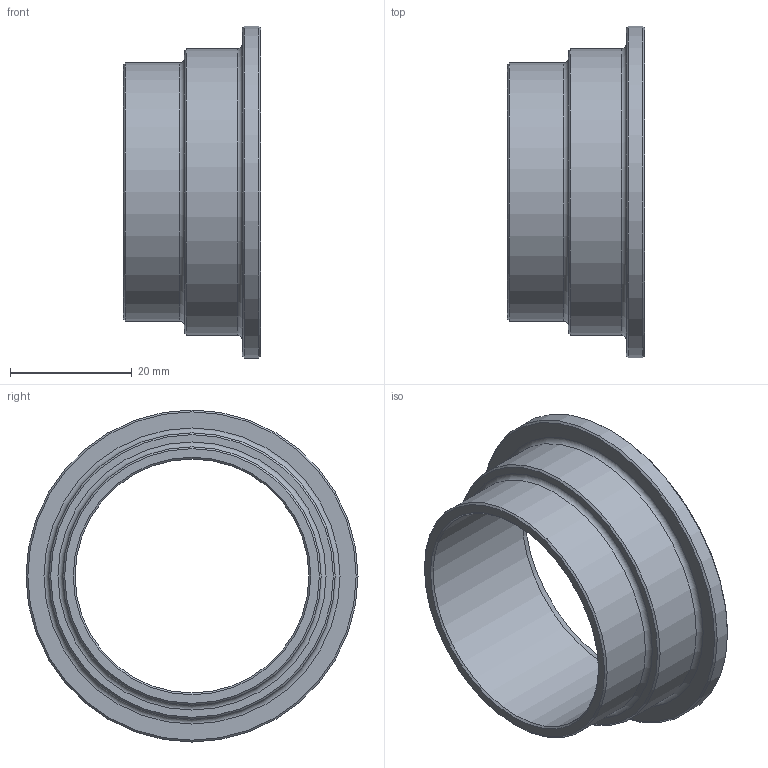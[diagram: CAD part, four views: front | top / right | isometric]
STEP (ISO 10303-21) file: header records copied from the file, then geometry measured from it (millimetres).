
FILE_DESCRIPTION(/* description */ (''),/* implementation_level */ '2;1');
FILE_NAME(/* name */ 'C:\Users\cad\Desktop\Zeichnungen neu von Ralph\3D_Kupplung_R666-SE\3D_R666-SE-42.4-DN50_17113363.stp',/* time_stamp */ '2021-06-18T08:50:47+02:00',/* author */ ('cad'),/* organization */ (''),/* preprocessor_version */ 'ST-DEVELOPER v18.1',/* originating_system */ 'Autodesk Inventor 2022',/* authorisation */ '');
FILE_SCHEMA (('AUTOMOTIVE_DESIGN { 1 0 10303 214 3 1 1 }'));
Length unit declared in the file: millimetre
Products named in the file (1): 3D_R666-SE-42.4-DN50_17113363
Bounding box: 22.5 x 54.5 x 54.5 mm (x, y, z)
Volume: 11471.3 mm3; surface area: 8012.4 mm2
Topology: 1 solids, 1 shells, 16 faces, 35 edges, 23 vertices
Faces by surface type: cone 6, cylinder 4, plane 4, torus 2
Full cylindrical faces by diameter (mm): 38.4 x1, 42.4 x1, 47 x1, 54.5 x1
Entity records: 501 total; most frequent: DIRECTION 94, CARTESIAN_POINT 75, ORIENTED_EDGE 70, AXIS2_PLACEMENT_3D 42, EDGE_CURVE 35, CIRCLE 25, VERTEX_POINT 23, EDGE_LOOP 20
